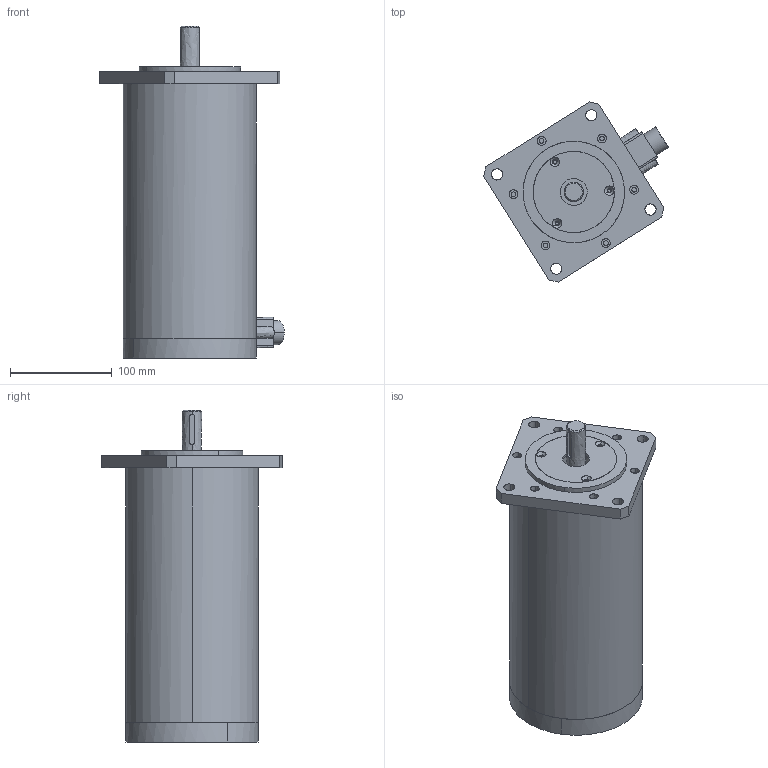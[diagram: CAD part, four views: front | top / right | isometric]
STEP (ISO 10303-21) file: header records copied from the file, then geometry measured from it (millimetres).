
FILE_DESCRIPTION (( 'STEP AP214' ), '1' );
FILE_NAME ('130A45.STEP', '2021-11-16T09:41:48', ( '微软用户' ), ( '微软中国' ), 'SwSTEP 2.0', 'SolidWorks 2020', '' );
FILE_SCHEMA (( 'AUTOMOTIVE_DESIGN' ));
Length unit declared in the file: millimetre
Products named in the file (8): 282dingzi.IGS; 199zhouchenggaiban .IGS; 130A45.IGS; 199hou.IGS; 諉芛.IGS; 130A45; 199qiang.IGS; 170zhou.IGS
Assembly tree (7 placements, depth 3):
  130A45
    130A45.IGS
      282dingzi.IGS
      199hou.IGS
      199qiang.IGS
      199zhouchenggaiban .IGS
      諉芛.IGS
      170zhou.IGS
Bounding box: 181.77 x 177.39 x 327 mm (x, y, z)
Volume: 3889058.8 mm3; surface area: 238555.3 mm2
Topology: 6 solids, 6 shells, 207 faces, 499 edges, 322 vertices
Faces by surface type: bspline 207
Entity records: 10031 total; most frequent: CARTESIAN_POINT 6749, ORIENTED_EDGE 978, EDGE_CURVE 489, B_SPLINE_CURVE_WITH_KNOTS 334, VERTEX_POINT 322, EDGE_LOOP 283, ADVANCED_FACE 207, FACE_OUTER_BOUND 207
